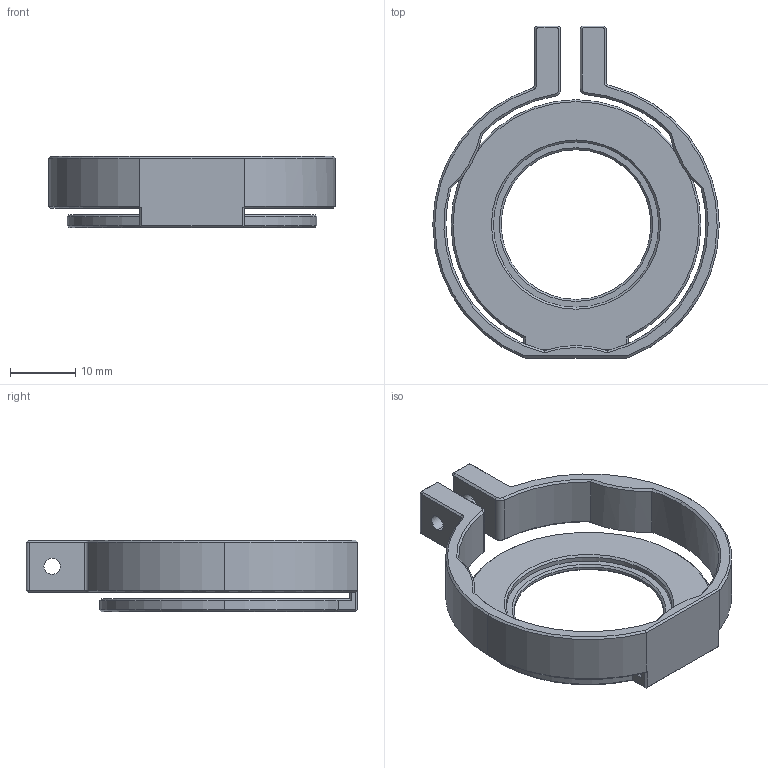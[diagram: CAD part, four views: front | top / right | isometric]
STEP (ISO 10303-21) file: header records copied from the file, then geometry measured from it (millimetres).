
FILE_DESCRIPTION (( 'STEP AP203' ), '1' );
FILE_NAME ('摄像头物镜加持件8.13.STEP', '2026-08-13T05:37:31', ( '' ), ( '' ), 'SwSTEP 2.0', 'SolidWorks 2024', '' );
FILE_SCHEMA (( 'CONFIG_CONTROL_DESIGN' ));
Length unit declared in the file: millimetre
Products named in the file (1): 摄像头物镜加持件8.13
Bounding box: 44 x 50.99 x 11 mm (x, y, z)
Volume: 4050.5 mm3; surface area: 4880.9 mm2
Topology: 1 solids, 1 shells, 118 faces, 281 edges, 167 vertices
Faces by surface type: cone 44, plane 42, cylinder 32
Entity records: 3480 total; most frequent: CARTESIAN_POINT 627, DIRECTION 613, ORIENTED_EDGE 562, EDGE_CURVE 281, AXIS2_PLACEMENT_3D 233, VERTEX_POINT 167, VECTOR 147, LINE 147
